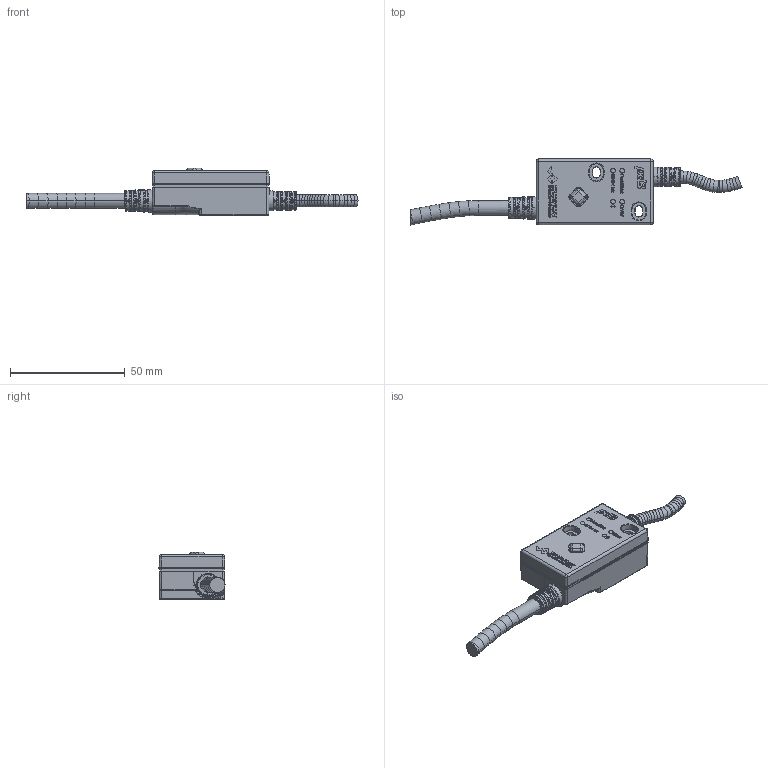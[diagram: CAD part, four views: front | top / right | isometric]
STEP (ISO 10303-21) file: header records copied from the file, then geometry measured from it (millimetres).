
FILE_DESCRIPTION (( 'STEP AP214' ), '1' );
FILE_NAME ('PD32test.STEP', '2020-07-07T08:29:30', ( '' ), ( '' ), 'SwSTEP 2.0', 'SolidWorks 2018', '' );
FILE_SCHEMA (( 'AUTOMOTIVE_DESIGN' ));
Length unit declared in the file: millimetre
Products named in the file (2): PD32test
Bounding box: 144.72 x 28.78 x 20.76 mm (x, y, z)
Volume: 29266 mm3; surface area: 8582.7 mm2
Topology: 1 solids, 8 shells, 1316 faces, 3382 edges, 2175 vertices
Faces by surface type: plane 677, bspline 370, cylinder 149, torus 80, cone 31, sphere 9
Entity records: 67969 total; most frequent: CARTESIAN_POINT 25691, ORIENTED_EDGE 6748, DIRECTION 4251, EDGE_CURVE 3374, VERTEX_POINT 2173, LINE 1577, VECTOR 1577, EDGE_LOOP 1421
